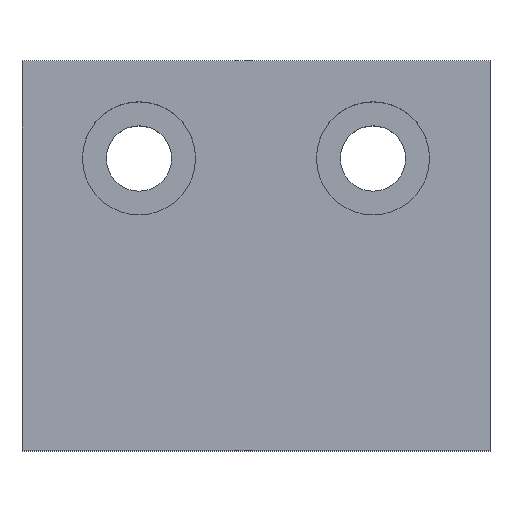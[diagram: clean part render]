
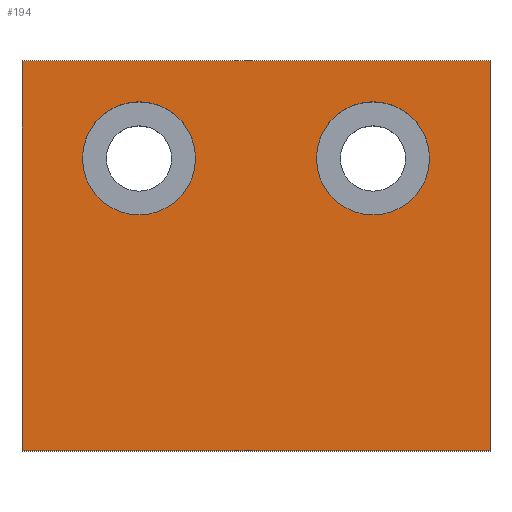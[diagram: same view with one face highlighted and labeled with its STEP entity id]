
A CAD part, top view. The second image highlights one B-rep face of the part: STEP entity #194.
In plain terms, the highlighted planar face has unit normal (0, 0, 1).
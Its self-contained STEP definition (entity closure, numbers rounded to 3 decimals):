
#21=LINE('',#327,#33);
#24=LINE('',#333,#36);
#27=LINE('',#339,#39);
#30=LINE('',#343,#42);
#33=VECTOR('',#274,10.);
#36=VECTOR('',#279,10.);
#39=VECTOR('',#284,10.);
#42=VECTOR('',#289,10.);
#55=FACE_BOUND('',#89,.T.);
#56=FACE_BOUND('',#90,.T.);
#68=FACE_OUTER_BOUND('',#88,.T.);
#88=EDGE_LOOP('',(#169,#170,#171,#172));
#89=EDGE_LOOP('',(#173));
#90=EDGE_LOOP('',(#174));
#93=CIRCLE('',#221,7.25);
#97=CIRCLE('',#228,7.25);
#101=VERTEX_POINT('',#304);
#105=VERTEX_POINT('',#315);
#109=VERTEX_POINT('',#324);
#110=VERTEX_POINT('',#326);
#112=VERTEX_POINT('',#332);
#114=VERTEX_POINT('',#338);
#117=EDGE_CURVE('',#101,#101,#93,.T.);
#121=EDGE_CURVE('',#105,#105,#97,.T.);
#125=EDGE_CURVE('',#110,#109,#21,.T.);
#128=EDGE_CURVE('',#112,#110,#24,.T.);
#131=EDGE_CURVE('',#114,#112,#27,.T.);
#134=EDGE_CURVE('',#109,#114,#30,.T.);
#169=ORIENTED_EDGE('',*,*,#134,.T.);
#170=ORIENTED_EDGE('',*,*,#131,.T.);
#171=ORIENTED_EDGE('',*,*,#128,.T.);
#172=ORIENTED_EDGE('',*,*,#125,.T.);
#173=ORIENTED_EDGE('',*,*,#117,.T.);
#174=ORIENTED_EDGE('',*,*,#121,.T.);
#182=PLANE('',#236);
#194=ADVANCED_FACE('',(#68,#55,#56),#182,.T.);
#221=AXIS2_PLACEMENT_3D('',#305,#250,#251);
#228=AXIS2_PLACEMENT_3D('',#316,#264,#265);
#236=AXIS2_PLACEMENT_3D('',#345,#292,#293);
#250=DIRECTION('center_axis',(0.,0.,-1.));
#251=DIRECTION('ref_axis',(1.,0.,0.));
#264=DIRECTION('center_axis',(0.,0.,-1.));
#265=DIRECTION('ref_axis',(1.,0.,0.));
#274=DIRECTION('',(0.,1.,0.));
#279=DIRECTION('',(1.,0.,0.));
#284=DIRECTION('',(0.,-1.,0.));
#289=DIRECTION('',(-1.,0.,0.));
#292=DIRECTION('center_axis',(0.,0.,1.));
#293=DIRECTION('ref_axis',(1.,0.,0.));
#304=CARTESIAN_POINT('',(-7.75,0.,25.));
#305=CARTESIAN_POINT('Origin',(-15.,0.,25.));
#315=CARTESIAN_POINT('',(22.25,0.,25.));
#316=CARTESIAN_POINT('Origin',(15.,0.,25.));
#324=CARTESIAN_POINT('',(30.,12.5,25.));
#326=CARTESIAN_POINT('',(30.,-37.5,25.));
#327=CARTESIAN_POINT('',(30.,12.5,25.));
#332=CARTESIAN_POINT('',(-30.,-37.5,25.));
#333=CARTESIAN_POINT('',(30.,-37.5,25.));
#338=CARTESIAN_POINT('',(-30.,12.5,25.));
#339=CARTESIAN_POINT('',(-30.,-37.5,25.));
#343=CARTESIAN_POINT('',(-30.,12.5,25.));
#345=CARTESIAN_POINT('Origin',(0.,-12.5,25.));
